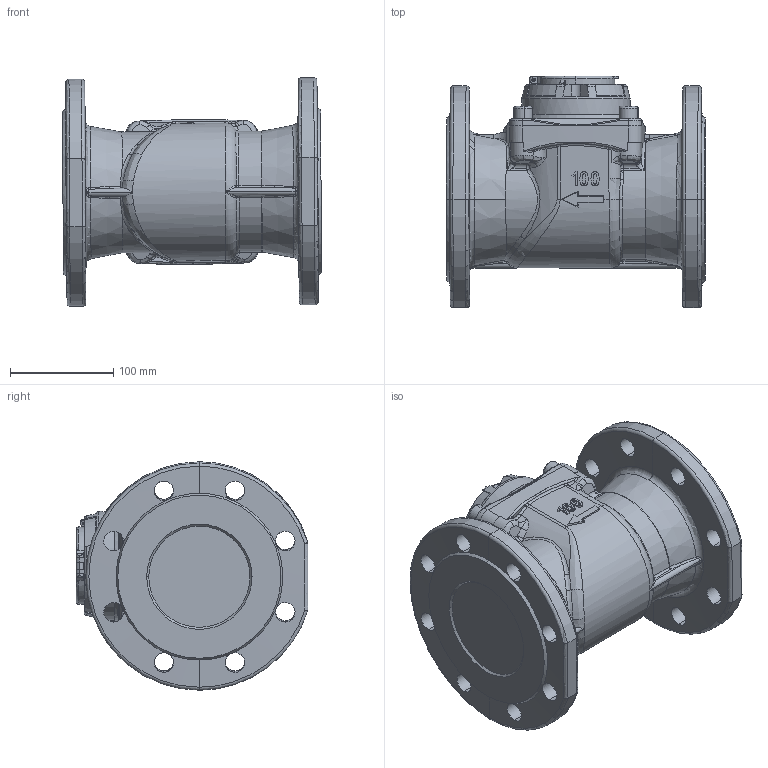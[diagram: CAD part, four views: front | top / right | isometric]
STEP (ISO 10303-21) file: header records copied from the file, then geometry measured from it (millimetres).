
FILE_DESCRIPTION (( 'STEP AP214' ), '1' );
FILE_NAME ('MWN100 IP65 NKO.STEP', '2025-07-09T12:25:28', ( '' ), ( '' ), 'SwSTEP 2.0', 'SolidWorks 2019', '' );
FILE_SCHEMA (( 'AUTOMOTIVE_DESIGN' ));
Length unit declared in the file: millimetre
Products named in the file (1): MWN100 IP65 NKO
Bounding box: 250.88 x 224.3 x 221.32 mm (x, y, z)
Volume: 4708875.2 mm3; surface area: 348527.5 mm2
Topology: 4 solids, 22 shells, 1345 faces, 3494 edges, 2193 vertices
Faces by surface type: plane 509, bspline 368, cylinder 265, cone 120, torus 74, sphere 9
Entity records: 72259 total; most frequent: CARTESIAN_POINT 27723, ORIENTED_EDGE 6880, DIRECTION 5177, EDGE_CURVE 3440, VERTEX_POINT 2193, AXIS2_PLACEMENT_3D 1759, LINE 1659, VECTOR 1659
